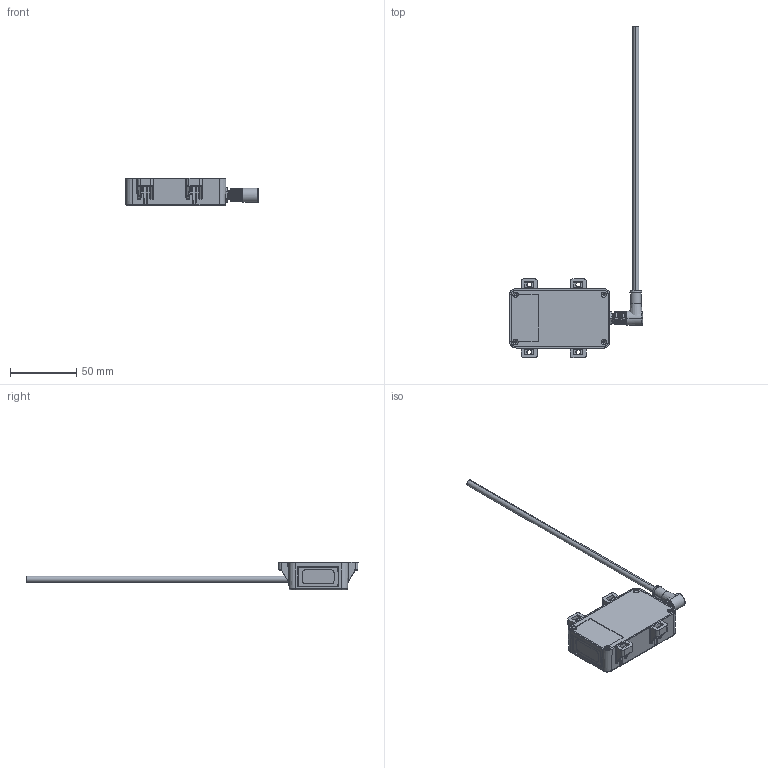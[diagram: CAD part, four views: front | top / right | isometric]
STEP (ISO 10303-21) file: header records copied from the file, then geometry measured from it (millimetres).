
FILE_DESCRIPTION((''),'2;1');
FILE_NAME('LX-ASM_ASM','2023-11-15T',('me'),(''),'PRO/ENGINEER BY PARAMETRIC TECHNOLOGY CORPORATION, 2015240','PRO/ENGINEER BY PARAMETRIC TECHNOLOGY CORPORATION, 2015240','');
FILE_SCHEMA(('AUTOMOTIVE_DESIGN_CC2 { 1 2 10303 214 -1 1 5 2 }'));
Products named in the file (23): JGCJ-PCBA-ALL_ASM_4_ASM_ASM_2_ASM; I1_GUANGJIGOU2_20151012_29_2; MANIFOLD_SOLID_BREP__22683_3_3_; MANIFOLD_SOLID_BREP_37982_1_4_1; 0-D5-20150827_ASM_25_ASM_4_ASM__ASM; M2-6_1; JGCJ-ASM_ASM_25_ASM_ASM_5_ASM; BASE-UP_188; JINGPIAN_17; FANGSHUI-GUIJIAO_11; BASE-DOWN_38; XS6-B_23; O-RING_4; NUT_6; M8-LJQ_ASM_15_ASM; FANGSHUI-GUIJIAO-B_6; PET_6; PAOMIAN_6; MANIFOLD_SOLID_BREP_129950; MANIFOLD_SOLID_BREP_130356; M8-B_5_ASM; XIAOHUANGGOU_ASM_126_ASM; LX-ASM_ASM
Assembly tree (26 placements, depth 5):
  LX-ASM_ASM
    XIAOHUANGGOU_ASM_126_ASM
      JGCJ-ASM_ASM_25_ASM_ASM_5_ASM
        JGCJ-PCBA-ALL_ASM_4_ASM_ASM_2_ASM
        0-D5-20150827_ASM_25_ASM_4_ASM__ASM
          I1_GUANGJIGOU2_20151012_29_2
          MANIFOLD_SOLID_BREP__22683_3_3_
          MANIFOLD_SOLID_BREP_37982_1_4_1
        M2-6_1  x3
      BASE-UP_188
      JINGPIAN_17
      M2-6_1  x2
      FANGSHUI-GUIJIAO_11
      BASE-DOWN_38
      M8-LJQ_ASM_15_ASM
        XS6-B_23
        O-RING_4
        NUT_6
      FANGSHUI-GUIJIAO-B_6
      PET_6
      PAOMIAN_6
      M8-B_5_ASM
        MANIFOLD_SOLID_BREP_129950
        MANIFOLD_SOLID_BREP_130356
Bounding box: 100.6 x 251.1 x 21 mm (x, y, z)
Volume: 40497.4 mm3; surface area: 44608.3 mm2
Topology: 20 solids, 33 shells, 2916 faces, 8353 edges, 5605 vertices
Faces by surface type: plane 1610, cylinder 791, bspline 154, cone 131, torus 124, extrusion 95, sphere 11
Entity records: 109875 total; most frequent: CARTESIAN_POINT 38459, ORIENTED_EDGE 15776, DIRECTION 12438, EDGE_CURVE 8039, VERTEX_POINT 5397, AXIS2_PLACEMENT_3D 4465, VECTOR 3508, LINE 3413
